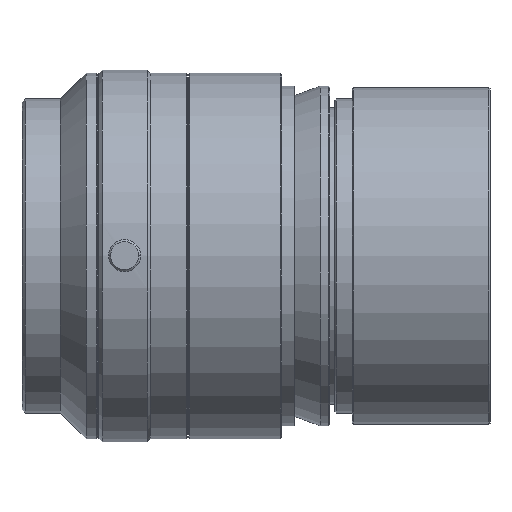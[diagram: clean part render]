
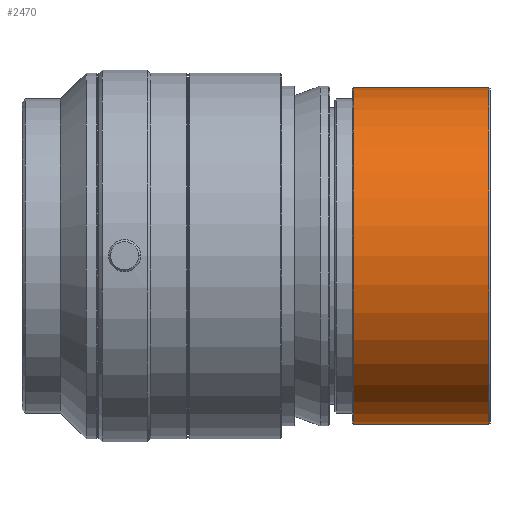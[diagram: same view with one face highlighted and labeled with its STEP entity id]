
A CAD part, top view. The second image highlights one B-rep face of the part: STEP entity #2470.
In plain terms, the highlighted cylindrical face has radius 26.25 mm (diameter 52.5 mm), a partial arc.
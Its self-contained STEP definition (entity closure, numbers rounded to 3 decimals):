
#57 = CARTESIAN_POINT ( 'NONE',  ( -197.801, 0., 0. ) ) ;
#140 = DIRECTION ( 'NONE',  ( -1., 0., 0. ) ) ;
#145 = CARTESIAN_POINT ( 'NONE',  ( -176.701, 26.25, 0. ) ) ;
#238 = VECTOR ( 'NONE', #1460, 1000. ) ;
#312 = DIRECTION ( 'NONE',  ( 0., -1., 0. ) ) ;
#530 = VERTEX_POINT ( 'NONE', #145 ) ;
#693 = VECTOR ( 'NONE', #140, 1000. ) ;
#701 = DIRECTION ( 'NONE',  ( 0., -1., 0. ) ) ;
#765 = AXIS2_PLACEMENT_3D ( 'NONE', #57, #1764, #312 ) ;
#839 = ORIENTED_EDGE ( 'NONE', *, *, #2032, .T. ) ;
#863 = AXIS2_PLACEMENT_3D ( 'NONE', #866, #2813, #2553 ) ;
#865 = ORIENTED_EDGE ( 'NONE', *, *, #2251, .F. ) ;
#866 = CARTESIAN_POINT ( 'NONE',  ( -251.993, 0., 0. ) ) ;
#922 = ORIENTED_EDGE ( 'NONE', *, *, #1139, .F. ) ;
#955 = CYLINDRICAL_SURFACE ( 'NONE', #863, 26.25 ) ;
#959 = CIRCLE ( 'NONE', #1476, 26.25 ) ;
#996 = CARTESIAN_POINT ( 'NONE',  ( -251.993, -26.25, 0. ) ) ;
#1118 = VERTEX_POINT ( 'NONE', #1231 ) ;
#1139 = EDGE_CURVE ( 'NONE', #1760, #1118, #2822, .T. ) ;
#1231 = CARTESIAN_POINT ( 'NONE',  ( -197.801, -26.25, 0. ) ) ;
#1412 = LINE ( 'NONE', #1599, #693 ) ;
#1458 = CARTESIAN_POINT ( 'NONE',  ( -176.701, 0., 0. ) ) ;
#1460 = DIRECTION ( 'NONE',  ( -1., 0., 0. ) ) ;
#1464 = EDGE_CURVE ( 'NONE', #530, #2767, #1412, .T. ) ;
#1476 = AXIS2_PLACEMENT_3D ( 'NONE', #1458, #3161, #701 ) ;
#1553 = EDGE_LOOP ( 'NONE', ( #839, #1913, #865, #922 ) ) ;
#1599 = CARTESIAN_POINT ( 'NONE',  ( -251.993, 26.25, 0. ) ) ;
#1628 = CIRCLE ( 'NONE', #765, 26.25 ) ;
#1746 = FACE_OUTER_BOUND ( 'NONE', #1553, .T. ) ;
#1760 = VERTEX_POINT ( 'NONE', #2703 ) ;
#1764 = DIRECTION ( 'NONE',  ( -1., 0., 0. ) ) ;
#1913 = ORIENTED_EDGE ( 'NONE', *, *, #1464, .T. ) ;
#2032 = EDGE_CURVE ( 'NONE', #1760, #530, #959, .T. ) ;
#2251 = EDGE_CURVE ( 'NONE', #1118, #2767, #1628, .T. ) ;
#2463 = CARTESIAN_POINT ( 'NONE',  ( -197.801, 26.25, 0. ) ) ;
#2470 = ADVANCED_FACE ( 'NONE', ( #1746 ), #955, .T. ) ;
#2553 = DIRECTION ( 'NONE',  ( 0., -1., 0. ) ) ;
#2703 = CARTESIAN_POINT ( 'NONE',  ( -176.701, -26.25, 0. ) ) ;
#2767 = VERTEX_POINT ( 'NONE', #2463 ) ;
#2813 = DIRECTION ( 'NONE',  ( -1., 0., 0. ) ) ;
#2822 = LINE ( 'NONE', #996, #238 ) ;
#3161 = DIRECTION ( 'NONE',  ( -1., 0., 0. ) ) ;
